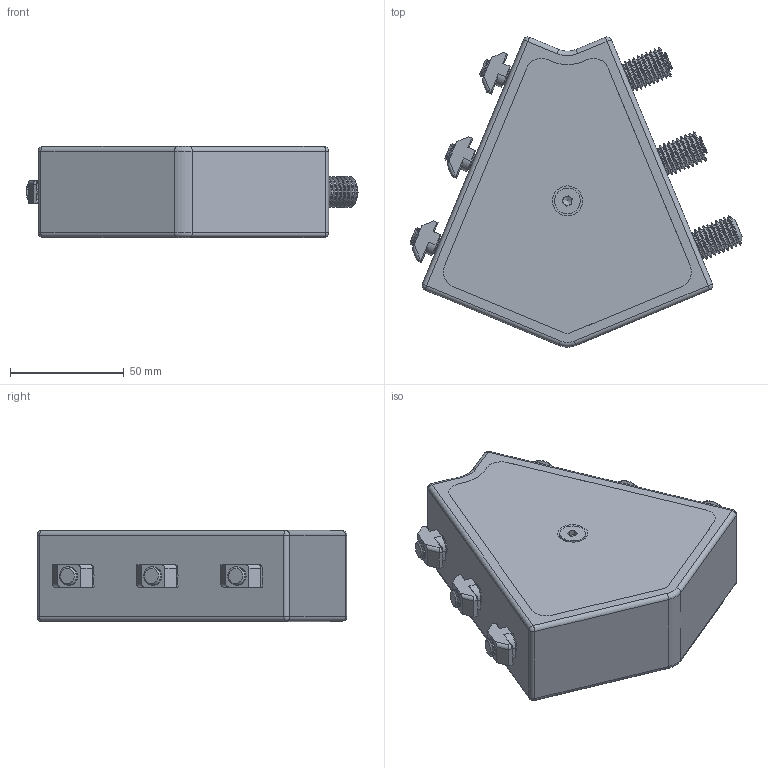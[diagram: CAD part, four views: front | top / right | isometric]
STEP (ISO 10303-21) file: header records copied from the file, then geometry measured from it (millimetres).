
FILE_DESCRIPTION(/* description */ ('Staffa per scala 45°'),/* implementation_level */ '2;1');
FILE_NAME(/* name */ 'C:\Users\Stefan.Nesic\Desktop\01010STEP\SJC40.120.45.stp',/* time_stamp */ '2022-06-17T15:22:10+02:00',/* author */ ('Daniele'),/* organization */ ('Î¢ÈíÖÐ¹ú'),/* preprocessor_version */ 'ST-DEVELOPER v18.1',/* originating_system */ 'Autodesk Inventor 2021',/* authorisation */ '');
FILE_SCHEMA (('AUTOMOTIVE_DESIGN { 1 0 10303 214 3 1 1 }'));
Products named in the file (1): SJC40.120.45
Bounding box: 145.77 x 136.07 x 40 mm (x, y, z)
Volume: 228897.4 mm3; surface area: 87020.9 mm2
Topology: 15 solids, 15 shells, 1618 faces, 4159 edges, 2622 vertices
Faces by surface type: plane 527, cone 478, cylinder 309, bspline 196, torus 99, sphere 9
Full cylindrical faces by diameter (mm): 1.216 x1, 1.474 x1, 1.843 x1, 4.2 x1, 6 x12, 6.8 x3, 8 x165, 8.5 x6, 11 x1, 11.34 x1, 14 x27
Entity records: 61443 total; most frequent: CARTESIAN_POINT 22699, ORIENTED_EDGE 8304, DIRECTION 7934, EDGE_CURVE 4152, AXIS2_PLACEMENT_3D 2949, VERTEX_POINT 2622, LINE 2036, VECTOR 2036
